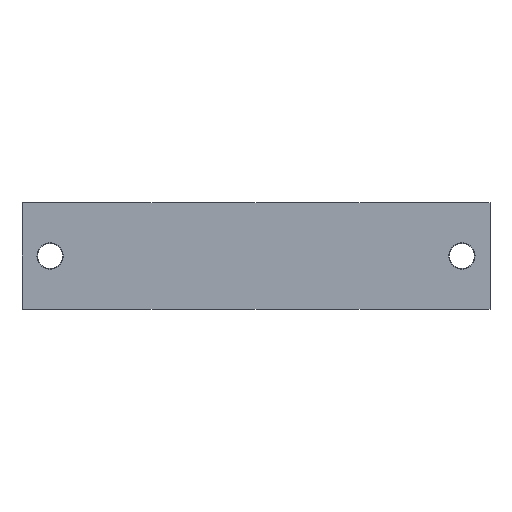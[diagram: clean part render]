
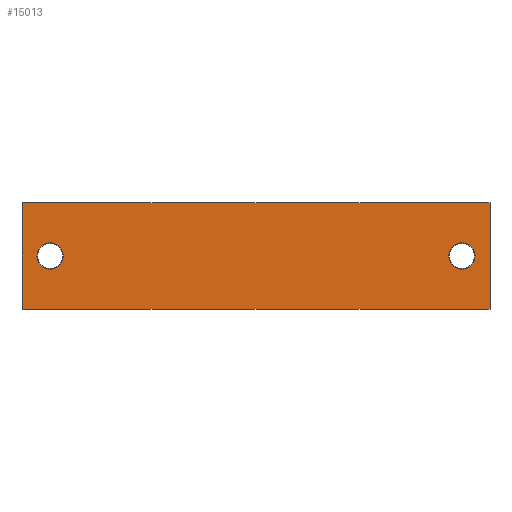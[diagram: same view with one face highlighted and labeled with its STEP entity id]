
A CAD part, front view. The second image highlights one B-rep face of the part: STEP entity #15013.
In plain terms, the highlighted planar face has unit normal (0, -1, 0).
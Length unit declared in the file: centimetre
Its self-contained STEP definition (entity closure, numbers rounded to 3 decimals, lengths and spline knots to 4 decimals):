
#1131=VECTOR('',#15850,1.);
#1637=VECTOR('',#16626,1.);
#2138=VECTOR('',#17969,1.);
#2139=VECTOR('',#17970,1.);
#2689=LINE('',#19924,#1131);
#3195=LINE('',#21706,#1637);
#3696=LINE('',#23406,#2138);
#3697=LINE('',#23407,#2139);
#4243=PLANE('',#24541);
#4722=VERTEX_POINT('',#19925);
#4723=VERTEX_POINT('',#19926);
#4734=VERTEX_POINT('',#19950);
#5158=VERTEX_POINT('',#21707);
#5159=VERTEX_POINT('',#21708);
#5170=VERTEX_POINT('',#21732);
#5759=CIRCLE('',#23815,0.21);
#5795=CIRCLE('',#24031,0.21);
#6668=EDGE_CURVE('',#4722,#4723,#2689,.T.);
#6680=EDGE_CURVE('',#4734,#4734,#5759,.T.);
#7317=EDGE_CURVE('',#5158,#5159,#3195,.T.);
#7329=EDGE_CURVE('',#5170,#5170,#5795,.T.);
#8094=EDGE_CURVE('',#5159,#4722,#3696,.T.);
#8095=EDGE_CURVE('',#4723,#5158,#3697,.T.);
#12246=ORIENTED_EDGE('',*,*,#6680,.T.);
#12247=ORIENTED_EDGE('',*,*,#7329,.T.);
#12248=ORIENTED_EDGE('',*,*,#8094,.T.);
#12249=ORIENTED_EDGE('',*,*,#6668,.T.);
#12250=ORIENTED_EDGE('',*,*,#8095,.T.);
#12251=ORIENTED_EDGE('',*,*,#7317,.T.);
#13327=EDGE_LOOP('',(#12246));
#13328=EDGE_LOOP('',(#12247));
#13329=EDGE_LOOP('',(#12248,#12249,#12250,#12251));
#14213=FACE_BOUND('',#13327,.T.);
#14214=FACE_BOUND('',#13328,.T.);
#14215=FACE_BOUND('',#13329,.T.);
#15013=ADVANCED_FACE('',(#14213,#14214,#14215),#4243,.T.);
#15850=DIRECTION('',(0.,0.,1.));
#15868=DIRECTION('',(0.,1.,0.));
#15869=DIRECTION('',(0.21,0.,0.));
#16626=DIRECTION('',(0.,0.,-1.));
#16644=DIRECTION('',(0.,1.,0.));
#16645=DIRECTION('',(-0.21,0.,0.));
#17968=DIRECTION('',(0.,-1.,0.));
#17969=DIRECTION('',(1.,0.,0.));
#17970=DIRECTION('',(-1.,0.,0.));
#19924=CARTESIAN_POINT('',(5.5,0.,0.85));
#19925=CARTESIAN_POINT('',(5.5,0.,-0.85));
#19926=CARTESIAN_POINT('',(5.5,0.,0.85));
#19949=CARTESIAN_POINT('',(5.05,0.,0.));
#19950=CARTESIAN_POINT('',(4.84,0.,0.));
#21706=CARTESIAN_POINT('',(-2.,0.,-0.85));
#21707=CARTESIAN_POINT('',(-2.,0.,0.85));
#21708=CARTESIAN_POINT('',(-2.,0.,-0.85));
#21731=CARTESIAN_POINT('',(-1.55,0.,0.));
#21732=CARTESIAN_POINT('',(-1.34,0.,0.));
#23405=CARTESIAN_POINT('',(0.,0.,0.));
#23406=CARTESIAN_POINT('',(0.,0.,-0.85));
#23407=CARTESIAN_POINT('',(-1.1,0.,0.85));
#23815=AXIS2_PLACEMENT_3D('',#19949,#15868,#15869);
#24031=AXIS2_PLACEMENT_3D('',#21731,#16644,#16645);
#24541=AXIS2_PLACEMENT_3D('',#23405,#17968,$);
